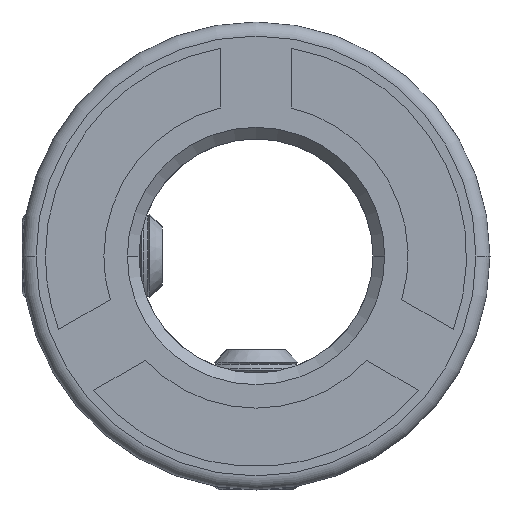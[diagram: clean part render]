
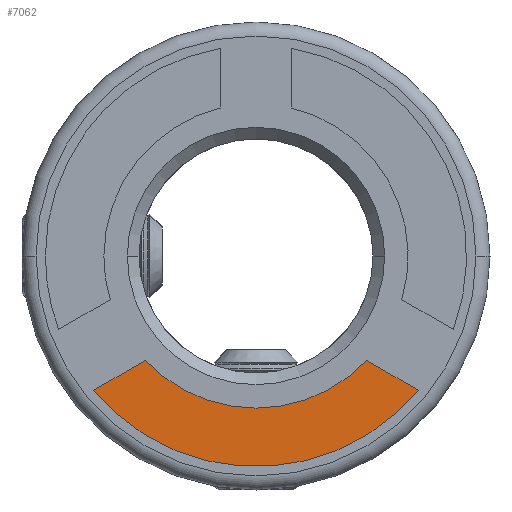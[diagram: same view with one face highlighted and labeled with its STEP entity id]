
A CAD part, front view. The second image highlights one B-rep face of the part: STEP entity #7062.
In plain terms, the highlighted planar face has unit normal (0, -1, 0).
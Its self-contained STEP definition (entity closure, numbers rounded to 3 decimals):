
#391 = CARTESIAN_POINT ( 'NONE',  ( -6.935, 0.5, -5.736 ) ) ;
#475 = VERTEX_POINT ( 'NONE', #391 ) ;
#654 = CARTESIAN_POINT ( 'NONE',  ( -4.727, 0.5, -4.461 ) ) ;
#854 = EDGE_CURVE ( 'NONE', #475, #2239, #3549, .T. ) ;
#1141 = DIRECTION ( 'NONE',  ( -0.866, 0., 0.5 ) ) ;
#1311 = LINE ( 'NONE', #1716, #4585 ) ;
#1422 = CARTESIAN_POINT ( 'NONE',  ( 0., 0.5, 0. ) ) ;
#1441 = LINE ( 'NONE', #654, #7307 ) ;
#1525 = PLANE ( 'NONE',  #5895 ) ;
#1630 = EDGE_CURVE ( 'NONE', #3474, #1705, #5622, .T. ) ;
#1705 = VERTEX_POINT ( 'NONE', #6439 ) ;
#1716 = CARTESIAN_POINT ( 'NONE',  ( 6.935, 0.5, -5.736 ) ) ;
#1957 = DIRECTION ( 'NONE',  ( 0., 1., 0. ) ) ;
#2118 = AXIS2_PLACEMENT_3D ( 'NONE', #6474, #3510, #5834 ) ;
#2239 = VERTEX_POINT ( 'NONE', #2593 ) ;
#2436 = EDGE_CURVE ( 'NONE', #1705, #475, #1441, .T. ) ;
#2583 = AXIS2_PLACEMENT_3D ( 'NONE', #1422, #1957, #7008 ) ;
#2593 = CARTESIAN_POINT ( 'NONE',  ( 6.935, 0.5, -5.736 ) ) ;
#3474 = VERTEX_POINT ( 'NONE', #3563 ) ;
#3510 = DIRECTION ( 'NONE',  ( 0., -1., 0. ) ) ;
#3549 = CIRCLE ( 'NONE', #2118, 9. ) ;
#3563 = CARTESIAN_POINT ( 'NONE',  ( 4.727, 0.5, -4.461 ) ) ;
#3950 = DIRECTION ( 'NONE',  ( 0., 1., 0. ) ) ;
#4575 = DIRECTION ( 'NONE',  ( -0.866, 0., -0.5 ) ) ;
#4585 = VECTOR ( 'NONE', #1141, 1000. ) ;
#5248 = EDGE_CURVE ( 'NONE', #2239, #3474, #1311, .T. ) ;
#5622 = CIRCLE ( 'NONE', #2583, 6.5 ) ;
#5665 = CARTESIAN_POINT ( 'NONE',  ( 0., 0.5, 0. ) ) ;
#5834 = DIRECTION ( 'NONE',  ( -1., 0., 0. ) ) ;
#5895 = AXIS2_PLACEMENT_3D ( 'NONE', #5665, #3950, #7355 ) ;
#5975 = ORIENTED_EDGE ( 'NONE', *, *, #854, .T. ) ;
#6048 = ORIENTED_EDGE ( 'NONE', *, *, #1630, .T. ) ;
#6330 = ORIENTED_EDGE ( 'NONE', *, *, #5248, .T. ) ;
#6439 = CARTESIAN_POINT ( 'NONE',  ( -4.727, 0.5, -4.461 ) ) ;
#6474 = CARTESIAN_POINT ( 'NONE',  ( 0., 0.5, 0. ) ) ;
#6517 = FACE_OUTER_BOUND ( 'NONE', #7374, .T. ) ;
#6827 = ORIENTED_EDGE ( 'NONE', *, *, #2436, .T. ) ;
#7008 = DIRECTION ( 'NONE',  ( 1., 0., 0. ) ) ;
#7062 = ADVANCED_FACE ( 'NONE', ( #6517 ), #1525, .F. ) ;
#7307 = VECTOR ( 'NONE', #4575, 1000. ) ;
#7355 = DIRECTION ( 'NONE',  ( 1., 0., 0. ) ) ;
#7374 = EDGE_LOOP ( 'NONE', ( #6048, #6827, #5975, #6330 ) ) ;
